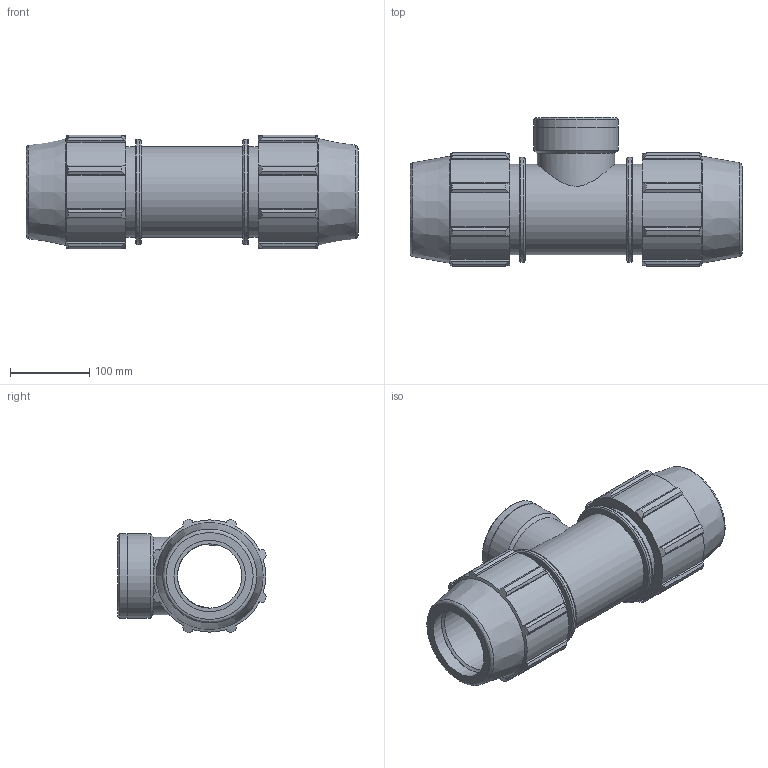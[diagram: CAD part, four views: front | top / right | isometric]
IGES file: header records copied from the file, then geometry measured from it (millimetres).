
Global section: file name: 871400090030_181400090030_841406090030.ipt; native system: Autodesk Inventor 2015; preprocessor: unknown; author: KIM; date: 20180325.201228; units: millimetre
Bounding box: 418 x 187.51 x 143.02 mm (x, y, z)
Volume: 2963431.6 mm3; surface area: 366550.6 mm2
Topology: 1 solids, 1 shells, 157 faces, 443 edges, 299 vertices
Faces by surface type: plane 79, cylinder 40, cone 23, revolution 15
Full cylindrical faces by diameter (mm): 97.665 x1, 106.157 x2, 114 x3, 132.24 x2
